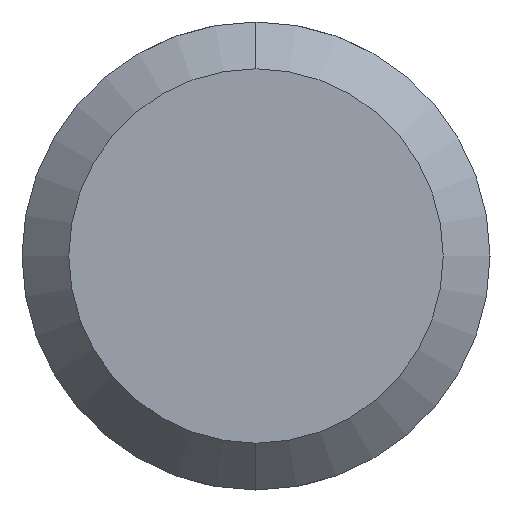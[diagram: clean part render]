
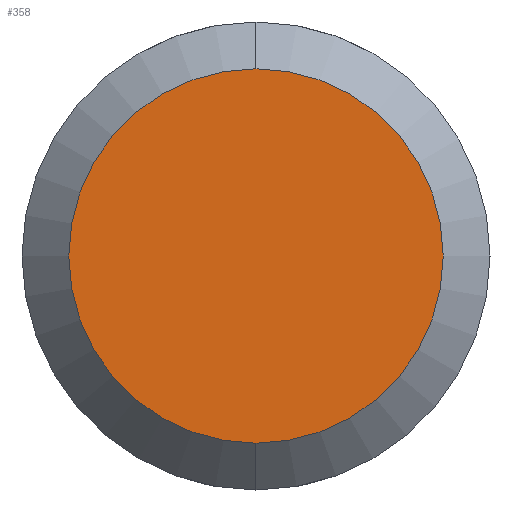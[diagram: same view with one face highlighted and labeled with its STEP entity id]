
A CAD part, left-side view. The second image highlights one B-rep face of the part: STEP entity #358.
In plain terms, the highlighted planar face has unit normal (-1, 0, 0).
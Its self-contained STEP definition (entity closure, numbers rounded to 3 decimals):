
#25 = VERTEX_POINT ( 'NONE', #350 ) ;
#43 = DIRECTION ( 'NONE',  ( 0., 0., -1. ) ) ;
#52 = DIRECTION ( 'NONE',  ( -1., 0., 0. ) ) ;
#53 = CARTESIAN_POINT ( 'NONE',  ( 0., 0., 0. ) ) ;
#54 = AXIS2_PLACEMENT_3D ( 'NONE', #53, #52, #175 ) ;
#62 = AXIS2_PLACEMENT_3D ( 'NONE', #372, #373, #300 ) ;
#161 = FACE_OUTER_BOUND ( 'NONE', #413, .T. ) ;
#175 = DIRECTION ( 'NONE',  ( 0., 0., 1. ) ) ;
#178 = EDGE_CURVE ( 'NONE', #25, #188, #305, .T. ) ;
#188 = VERTEX_POINT ( 'NONE', #289 ) ;
#201 = EDGE_CURVE ( 'NONE', #188, #25, #363, .T. ) ;
#223 = ORIENTED_EDGE ( 'NONE', *, *, #178, .T. ) ;
#284 = PLANE ( 'NONE',  #341 ) ;
#289 = CARTESIAN_POINT ( 'NONE',  ( 0., 0., -3.2 ) ) ;
#300 = DIRECTION ( 'NONE',  ( 0., 0., 1. ) ) ;
#301 = ORIENTED_EDGE ( 'NONE', *, *, #201, .T. ) ;
#305 = CIRCLE ( 'NONE', #62, 3.2 ) ;
#341 = AXIS2_PLACEMENT_3D ( 'NONE', #395, #379, #43 ) ;
#350 = CARTESIAN_POINT ( 'NONE',  ( 0., 0., 3.2 ) ) ;
#358 = ADVANCED_FACE ( 'NONE', ( #161 ), #284, .F. ) ;
#363 = CIRCLE ( 'NONE', #54, 3.2 ) ;
#372 = CARTESIAN_POINT ( 'NONE',  ( 0., 0., 0. ) ) ;
#373 = DIRECTION ( 'NONE',  ( -1., 0., 0. ) ) ;
#379 = DIRECTION ( 'NONE',  ( 1., 0., 0. ) ) ;
#395 = CARTESIAN_POINT ( 'NONE',  ( 0., 3.2, 0. ) ) ;
#413 = EDGE_LOOP ( 'NONE', ( #301, #223 ) ) ;
